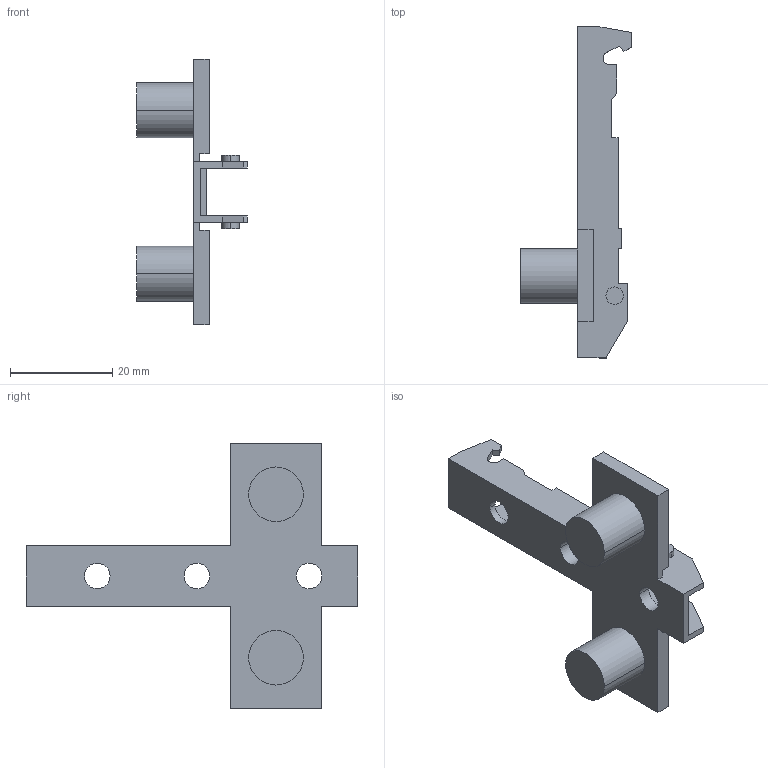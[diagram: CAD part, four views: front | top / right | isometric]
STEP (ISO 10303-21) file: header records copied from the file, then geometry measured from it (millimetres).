
FILE_DESCRIPTION (( 'STEP AP214' ), '1' );
FILE_NAME ('Eco Kreuzmontageplatte LR28_32_Dübel 10mm_H00.step', '2010-11-18T10:06:44', ( 'grass' ), ( '' ), 'SwSTEP 2.0', 'SolidWorks 2010', '' );
FILE_SCHEMA (( 'AUTOMOTIVE_DESIGN' ));
Length unit declared in the file: millimetre
Products named in the file (1): Eco Kreuzmontageplatte LR28_32_Dübel 10mm_H00
Bounding box: 21.7 x 65 x 52 mm (x, y, z)
Volume: 6119.3 mm3; surface area: 6121.6 mm2
Topology: 1 solids, 1 shells, 98 faces, 262 edges, 172 vertices
Faces by surface type: plane 74, cylinder 20, cone 4
Entity records: 3072 total; most frequent: CARTESIAN_POINT 533, ORIENTED_EDGE 524, DIRECTION 504, EDGE_CURVE 262, VECTOR 218, LINE 218, VERTEX_POINT 172, AXIS2_PLACEMENT_3D 143
